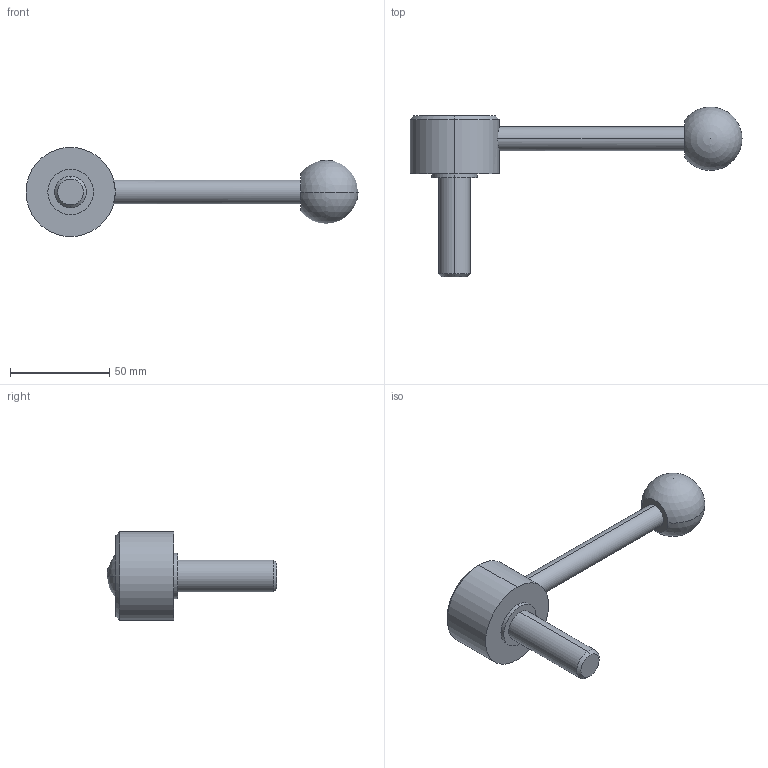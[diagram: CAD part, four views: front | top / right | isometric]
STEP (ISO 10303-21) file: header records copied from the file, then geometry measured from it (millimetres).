
FILE_DESCRIPTION (( 'STEP AP214' ), '1' );
FILE_NAME ('125.5-45-M16-50-D.step', '2020-02-18T11:42:35', ( '' ), ( '' ), 'SwSTEP 2.0', 'SolidWorks 2019', '' );
FILE_SCHEMA (( 'AUTOMOTIVE_DESIGN' ));
Length unit declared in the file: millimetre
Products named in the file (1): 125.5-45-M16-50-D
Bounding box: 167.5 x 85.67 x 45 mm (x, y, z)
Volume: 84478.7 mm3; surface area: 16265.6 mm2
Topology: 1 solids, 1 shells, 22 faces, 47 edges, 30 vertices
Faces by surface type: cylinder 10, plane 6, cone 4, sphere 2
Entity records: 748 total; most frequent: CARTESIAN_POINT 176, DIRECTION 112, ORIENTED_EDGE 84, AXIS2_PLACEMENT_3D 49, EDGE_CURVE 42, VERTEX_POINT 27, EDGE_LOOP 27, CIRCLE 26
